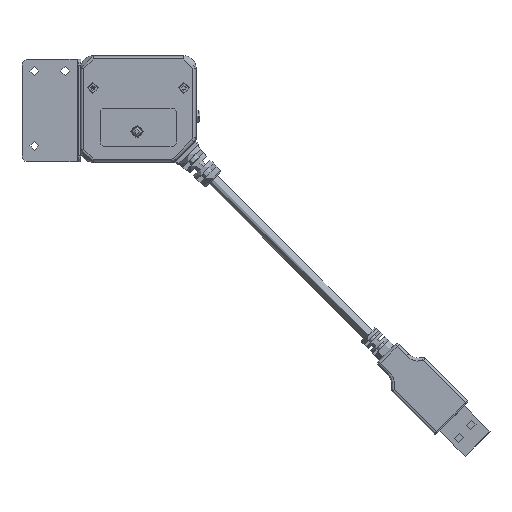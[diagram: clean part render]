
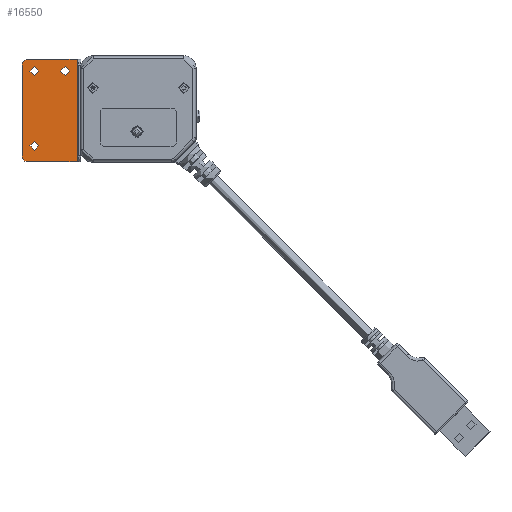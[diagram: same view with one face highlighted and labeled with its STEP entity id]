
A CAD part, top view. The second image highlights one B-rep face of the part: STEP entity #16550.
In plain terms, the highlighted planar face has unit normal (0, 0, 1).
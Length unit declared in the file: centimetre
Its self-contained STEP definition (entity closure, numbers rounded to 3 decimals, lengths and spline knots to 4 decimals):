
#1075=LINE($,#26796,#2567);
#1093=LINE($,#26857,#2585);
#1094=LINE($,#26860,#2586);
#1095=LINE($,#26861,#2587);
#2567=VECTOR($,#20813,3.5);
#2585=VECTOR($,#20873,3.1);
#2586=VECTOR($,#20876,1.68);
#2587=VECTOR($,#20877,1.68);
#3810=FACE_BOUND($,#5469,.T.);
#3811=FACE_BOUND($,#5470,.T.);
#3812=FACE_BOUND($,#5471,.T.);
#4366=FACE_OUTER_BOUND($,#5468,.T.);
#5468=EDGE_LOOP($,(#12657,#12658,#12659,#12660,#12661,#12662));
#5469=EDGE_LOOP($,(#12663));
#5470=EDGE_LOOP($,(#12664));
#5471=EDGE_LOOP($,(#12665));
#6417=CIRCLE($,#17880,0.2);
#6418=CIRCLE($,#17882,0.2);
#6419=CIRCLE($,#17883,0.155);
#6420=CIRCLE($,#17884,0.155);
#6421=CIRCLE($,#17885,0.155);
#7361=VERTEX_POINT($,#26788);
#7363=VERTEX_POINT($,#26794);
#7383=VERTEX_POINT($,#26850);
#7384=VERTEX_POINT($,#26851);
#7385=VERTEX_POINT($,#26856);
#7386=VERTEX_POINT($,#26858);
#7387=VERTEX_POINT($,#26862);
#7388=VERTEX_POINT($,#26864);
#7389=VERTEX_POINT($,#26866);
#9266=EDGE_CURVE($,#7361,#7363,#1075,.T.);
#9293=EDGE_CURVE($,#7383,#7384,#6417,.T.);
#9296=EDGE_CURVE($,#7384,#7385,#1093,.T.);
#9297=EDGE_CURVE($,#7385,#7386,#6418,.T.);
#9298=EDGE_CURVE($,#7363,#7386,#1094,.T.);
#9299=EDGE_CURVE($,#7361,#7383,#1095,.T.);
#9300=EDGE_CURVE($,#7387,#7387,#6419,.T.);
#9301=EDGE_CURVE($,#7388,#7388,#6420,.T.);
#9302=EDGE_CURVE($,#7389,#7389,#6421,.T.);
#12657=ORIENTED_EDGE($,*,*,#9293,.T.);
#12658=ORIENTED_EDGE($,*,*,#9296,.T.);
#12659=ORIENTED_EDGE($,*,*,#9297,.T.);
#12660=ORIENTED_EDGE($,*,*,#9298,.F.);
#12661=ORIENTED_EDGE($,*,*,#9266,.F.);
#12662=ORIENTED_EDGE($,*,*,#9299,.T.);
#12663=ORIENTED_EDGE($,*,*,#9300,.T.);
#12664=ORIENTED_EDGE($,*,*,#9301,.T.);
#12665=ORIENTED_EDGE($,*,*,#9302,.T.);
#15829=PLANE($,#17881);
#16550=ADVANCED_FACE($,(#4366,#3810,#3811,#3812),#15829,.T.);
#17880=AXIS2_PLACEMENT_3D($,#26852,#20867,#20868);
#17881=AXIS2_PLACEMENT_3D($,#26855,#20871,#20872);
#17882=AXIS2_PLACEMENT_3D($,#26859,#20874,#20875);
#17883=AXIS2_PLACEMENT_3D($,#26863,#20878,#20879);
#17884=AXIS2_PLACEMENT_3D($,#26865,#20880,#20881);
#17885=AXIS2_PLACEMENT_3D($,#26867,#20882,#20883);
#20813=DIRECTION($,(0.,-1.,0.));
#20867=DIRECTION('center_axis',(0.,0.,1.));
#20868=DIRECTION('ref_axis',(0.,1.,0.));
#20871=DIRECTION('center_axis',(0.,0.,1.));
#20872=DIRECTION('ref_axis',(-1.,0.,0.));
#20873=DIRECTION($,(0.,-1.,0.));
#20874=DIRECTION('center_axis',(0.,0.,1.));
#20875=DIRECTION('ref_axis',(-1.,0.,0.));
#20876=DIRECTION($,(-1.,0.,0.));
#20877=DIRECTION($,(-1.,0.,0.));
#20878=DIRECTION('center_axis',(0.,0.,-1.));
#20879=DIRECTION('ref_axis',(-1.,0.,0.));
#20880=DIRECTION('center_axis',(0.,0.,-1.));
#20881=DIRECTION('ref_axis',(-1.,0.,0.));
#20882=DIRECTION('center_axis',(0.,0.,-1.));
#20883=DIRECTION('ref_axis',(-1.,0.,0.));
#26788=CARTESIAN_POINT('',(-2.095,2.425,-0.61));
#26794=CARTESIAN_POINT('',(-2.095,-1.075,-0.61));
#26796=CARTESIAN_POINT($,(-2.095,2.425,-0.61));
#26850=CARTESIAN_POINT('',(-3.775,2.425,-0.61));
#26851=CARTESIAN_POINT('',(-3.975,2.225,-0.61));
#26852=CARTESIAN_POINT('Origin',(-3.775,2.225,-0.61));
#26855=CARTESIAN_POINT('Origin',(-2.095,2.425,-0.61));
#26856=CARTESIAN_POINT('',(-3.975,-0.875,-0.61));
#26857=CARTESIAN_POINT($,(-3.975,2.225,-0.61));
#26858=CARTESIAN_POINT('',(-3.775,-1.075,-0.61));
#26859=CARTESIAN_POINT('Origin',(-3.775,-0.875,-0.61));
#26860=CARTESIAN_POINT($,(-2.095,-1.075,-0.61));
#26861=CARTESIAN_POINT($,(-2.095,2.425,-0.61));
#26862=CARTESIAN_POINT('',(-2.345,2.025,-0.61));
#26863=CARTESIAN_POINT('Origin',(-2.5,2.025,-0.61));
#26864=CARTESIAN_POINT('',(-3.395,2.025,-0.61));
#26865=CARTESIAN_POINT('Origin',(-3.55,2.025,-0.61));
#26866=CARTESIAN_POINT('',(-3.395,-0.525,-0.61));
#26867=CARTESIAN_POINT('Origin',(-3.55,-0.525,-0.61));
